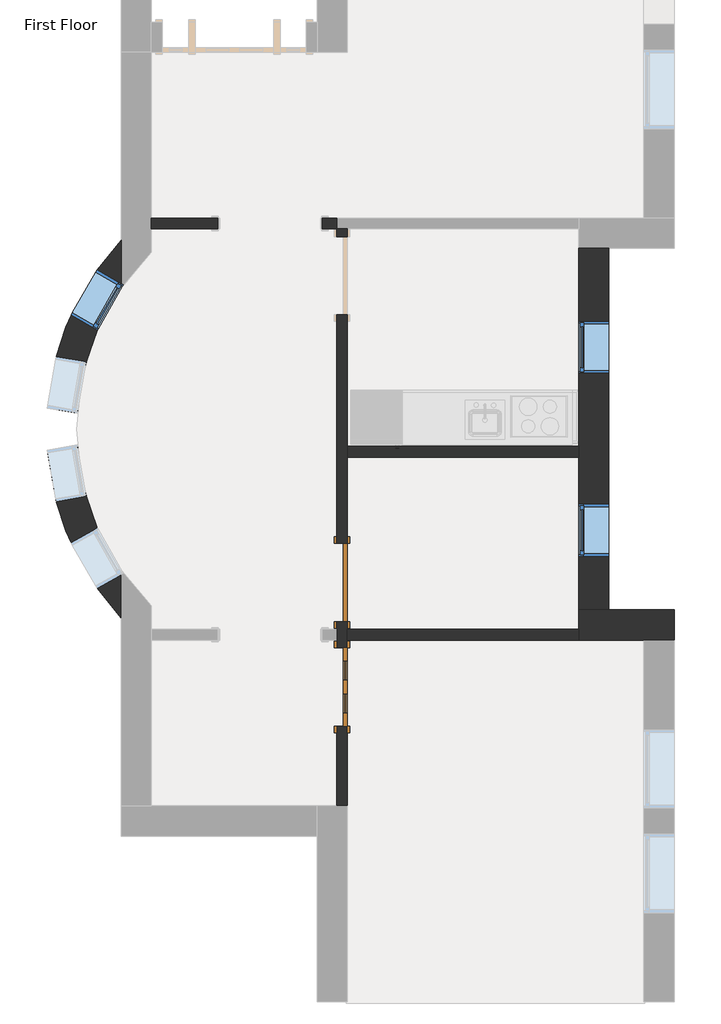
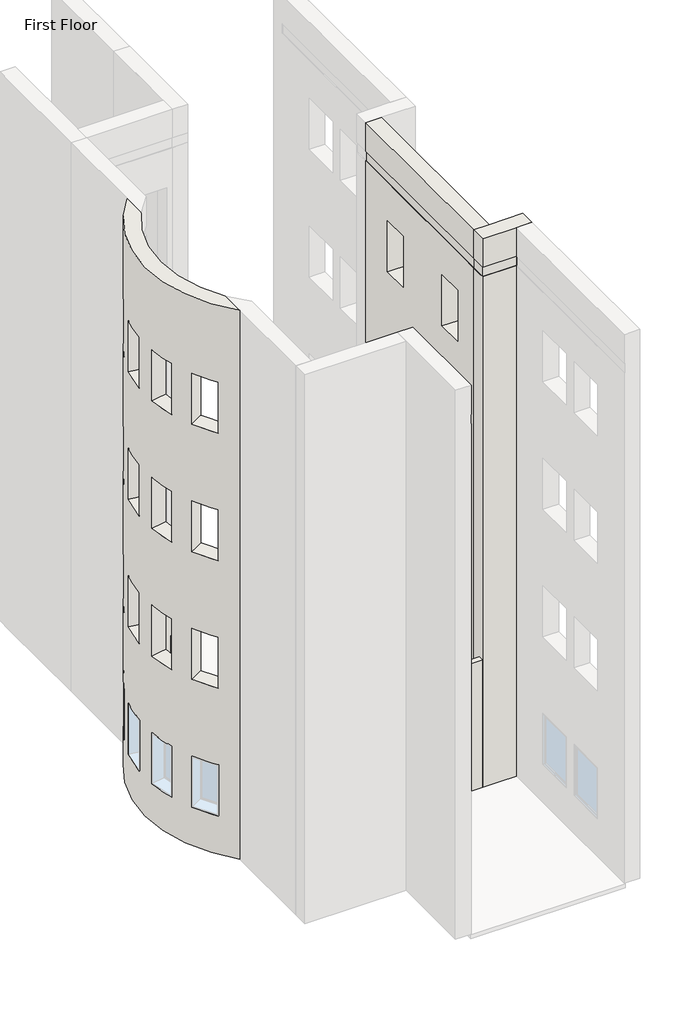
# One storey, part 12 of 23: 7 walls, 3 windows, 2 doors.
"""IFC4 building model written with IfcOpenShell, lengths in millimetres."""

from ifc_helpers import new_model, si_unit, frame, origin, origin_with_axes, place, context, project, spatial, polyline, circle_curve, outline, extrude, faceted_brep, transform, mapped, element, save
from ifc_brep_helpers import plane_surface, cylinder_surface, revolved_surface, advanced_brep
from components import door_829da954, door_a1797ceb, window_60baf983, window_ed80354a

model = new_model("IFC4")

# Units and contexts
model_context = context("Model", 3, world=origin())
ifc_project = project(units=[si_unit("LENGTHUNIT", "METRE", prefix="MILLI")], contexts=[model_context])

# Site, building, storey
site = spatial("IfcSite", under=ifc_project)
building = spatial("IfcBuilding", under=site)
storey = spatial("IfcBuildingStorey", under=building, Name="First Floor", Elevation=0.0)

# Doors
placement = place(None, origin())
door_shape = door_829da954(model_context)
element("IfcDoor", 1, ObjectType="Single-Decorative 2 : 36\" x 84\"", at=placement, inside=storey, context=model_context, shape_type="MappedRepresentation", body=[
    mapped(door_shape, transform((-3900.4589563, -7954.4808133, 0.0), x_axis=(0.0, 1.0, 0.0), y_axis=(-1.0, 0.0, 0.0), z_axis=(0.0, 0.0, 1.0))),
])
door_2_shape = door_a1797ceb(model_context)
element("IfcDoor", 2, ObjectType="Single-Flush : 36\" x 84\"", at=placement, inside=storey, context=model_context, shape_type="MappedRepresentation", body=[
    mapped(door_2_shape, transform((-3900.4589563, -6735.2808133, 0.0), x_axis=(0.0, -1.0, 0.0), y_axis=(1.0, 0.0, 0.0), z_axis=(0.0, 0.0, 1.0))),
])

# Walls
element("IfcWall", 3, ObjectType="Exterior - Brick on Mtl. Stud", at=placement, inside=storey, context=model_context, shape_type="Brep", body=[
    faceted_brep([(-26.9589563, -7055.9558133, 0.0), (-788.9589563, -7055.9558133, 0.0), (-1141.3839563, -7055.9558133, 0.0), (-1141.3839563, -7055.9558133, 12192.0), (-1128.6839563, -7055.9558133, 12192.0), (-1128.6839563, -7055.9558133, 12420.6), (-1141.3839563, -7055.9558133, 12420.6), (-1141.3839563, -7055.9558133, 13106.4), (-788.9589563, -7055.9558133, 13106.4), (-26.9589563, -7055.9558133, 13106.4), (-1141.3839563, -7408.3808133, 0.0), (-379.3839563, -7408.3808133, 0.0), (-26.9589563, -7408.3808133, 0.0), (-26.9589563, -7408.3808133, 13106.4), (-379.3839563, -7408.3808133, 13106.4), (-1141.3839563, -7408.3808133, 13106.4), (-1141.3839563, -7408.3808133, 12420.6), (-379.3839563, -7408.3808133, 12420.6), (-366.6839563, -7408.3808133, 12420.6), (-366.6839563, -7408.3808133, 12192.0), (-379.3839563, -7408.3808133, 12192.0), (-1141.3839563, -7408.3808133, 12192.0), (-1141.3839563, -7408.3808133, 9144.0), (-1141.3839563, -7408.3808133, 6096.0), (-1141.3839563, -7408.3808133, 3048.0), (-1141.3839563, -7281.3808133, 0.0), (-1141.3839563, -7281.3808133, 12192.0), (-366.6839563, -7395.6808133, 12192.0), (-1128.6839563, -7395.6808133, 12192.0), (-1128.6839563, -7395.6808133, 12420.6), (-366.6839563, -7395.6808133, 12420.6)], [[[0, 1, 2, 3, 4, 5, 6, 7, 8, 9]], [[10, 11, 12, 13, 14, 15, 16, 17, 18, 19, 20, 21, 22, 23, 24]], [[2, 1, 0, 12, 11, 10, 25]], [[9, 8, 7, 15, 14, 13]], [[0, 9, 13, 12]], [[2, 25, 10, 24, 23, 22, 21, 26, 3]], [[15, 7, 6, 16]], [[27, 28, 4, 3, 26, 21, 20, 19]], [[29, 30, 18, 17, 16, 6, 5]], [[30, 27, 19, 18]], [[28, 27, 30, 29]], [[28, 29, 5, 4]]]),
])
element("IfcWall", 4, ObjectType="Exterior - Brick on Mtl. Stud", at=placement, inside=storey, context=model_context, shape_type="Brep", body=[
    faceted_brep([(-788.9589563, -7055.9558133, 0.0), (-788.9589563, -2836.3808133, 0.0), (-788.9589563, -2836.3808133, 13106.4), (-788.9589563, -7055.9558133, 13106.4), (-788.9589563, -6430.4808133, 7010.4), (-788.9589563, -6430.4808133, 8229.6), (-788.9589563, -5820.8808133, 8229.6), (-788.9589563, -5820.8808133, 7010.4), (-788.9589563, -4296.8808133, 7010.4), (-788.9589563, -4296.8808133, 8229.6), (-788.9589563, -3687.2808133, 8229.6), (-788.9589563, -3687.2808133, 7010.4), (-788.9589563, -6430.4808133, 3962.4), (-788.9589563, -6430.4808133, 5181.6), (-788.9589563, -5820.8808133, 5181.6), (-788.9589563, -5820.8808133, 3962.4), (-788.9589563, -4296.8808133, 3962.4), (-788.9589563, -4296.8808133, 5181.6), (-788.9589563, -3687.2808133, 5181.6), (-788.9589563, -3687.2808133, 3962.4), (-788.9589563, -6430.4808133, 10058.4), (-788.9589563, -6430.4808133, 11277.6), (-788.9589563, -5820.8808133, 11277.6), (-788.9589563, -5820.8808133, 10058.4), (-788.9589563, -4296.8808133, 10058.4), (-788.9589563, -4296.8808133, 11277.6), (-788.9589563, -3687.2808133, 11277.6), (-788.9589563, -3687.2808133, 10058.4), (-788.9589563, -6430.4808133, 914.4), (-788.9589563, -6430.4808133, 2133.6), (-788.9589563, -5820.8808133, 2133.6), (-788.9589563, -5820.8808133, 914.4), (-788.9589563, -4296.8808133, 914.4), (-788.9589563, -4296.8808133, 2133.6), (-788.9589563, -3687.2808133, 2133.6), (-788.9589563, -3687.2808133, 914.4), (-1141.3839563, -2836.3808133, 0.0), (-1141.3839563, -5147.7808133, 0.0), (-1141.3839563, -5274.7808133, 0.0), (-1141.3839563, -7055.9558133, 0.0), (-1141.3839563, -7055.9558133, 12192.0), (-1141.3839563, -5274.7808133, 12192.0), (-1141.3839563, -5147.7808133, 12192.0), (-1141.3839563, -2836.3808133, 12192.0), (-1141.3839563, -6430.4808133, 8229.6), (-1141.3839563, -6430.4808133, 7010.4), (-1141.3839563, -5820.8808133, 7010.4), (-1141.3839563, -5820.8808133, 8229.6), (-1141.3839563, -4296.8808133, 8229.6), (-1141.3839563, -4296.8808133, 7010.4), (-1141.3839563, -3687.2808133, 7010.4), (-1141.3839563, -3687.2808133, 8229.6), (-1141.3839563, -6430.4808133, 5181.6), (-1141.3839563, -6430.4808133, 3962.4), (-1141.3839563, -5820.8808133, 3962.4), (-1141.3839563, -5820.8808133, 5181.6), (-1141.3839563, -4296.8808133, 5181.6), (-1141.3839563, -4296.8808133, 3962.4), (-1141.3839563, -3687.2808133, 3962.4), (-1141.3839563, -3687.2808133, 5181.6), (-1141.3839563, -6430.4808133, 11277.6), (-1141.3839563, -6430.4808133, 10058.4), (-1141.3839563, -5820.8808133, 10058.4), (-1141.3839563, -5820.8808133, 11277.6), (-1141.3839563, -4296.8808133, 11277.6), (-1141.3839563, -4296.8808133, 10058.4), (-1141.3839563, -3687.2808133, 10058.4), (-1141.3839563, -3687.2808133, 11277.6), (-1141.3839563, -6430.4808133, 2133.6), (-1141.3839563, -6430.4808133, 914.4), (-1141.3839563, -5820.8808133, 914.4), (-1141.3839563, -5820.8808133, 2133.6), (-1141.3839563, -4296.8808133, 2133.6), (-1141.3839563, -4296.8808133, 914.4), (-1141.3839563, -3687.2808133, 914.4), (-1141.3839563, -3687.2808133, 2133.6), (-1141.3839563, -7055.9558133, 13106.4), (-1141.3839563, -2836.3808133, 13106.4), (-1141.3839563, -2836.3808133, 12420.6), (-1141.3839563, -7055.9558133, 12420.6), (-1128.6839563, -7055.9558133, 12420.6), (-1128.6839563, -7055.9558133, 12192.0), (-1128.6839563, -2836.3808133, 12192.0), (-1128.6839563, -2836.3808133, 12420.6)], [[[0, 1, 2, 3], [4, 5, 6, 7], [8, 9, 10, 11], [12, 13, 14, 15], [16, 17, 18, 19], [20, 21, 22, 23], [24, 25, 26, 27], [28, 29, 30, 31], [32, 33, 34, 35]], [[36, 37, 38, 39, 40, 41, 42, 43], [44, 45, 46, 47], [48, 49, 50, 51], [52, 53, 54, 55], [56, 57, 58, 59], [60, 61, 62, 63], [64, 65, 66, 67], [68, 69, 70, 71], [72, 73, 74, 75]], [[76, 77, 78, 79]], [[1, 0, 39, 38, 37, 36]], [[3, 2, 77, 76]], [[0, 3, 76, 79, 80, 81, 40, 39]], [[2, 1, 36, 43, 82, 83, 78, 77]], [[45, 44, 5, 4]], [[46, 45, 4, 7]], [[47, 46, 7, 6]], [[44, 47, 6, 5]], [[49, 48, 9, 8]], [[50, 49, 8, 11]], [[51, 50, 11, 10]], [[48, 51, 10, 9]], [[53, 52, 13, 12]], [[54, 53, 12, 15]], [[55, 54, 15, 14]], [[52, 55, 14, 13]], [[57, 56, 17, 16]], [[58, 57, 16, 19]], [[59, 58, 19, 18]], [[56, 59, 18, 17]], [[61, 60, 21, 20]], [[62, 61, 20, 23]], [[63, 62, 23, 22]], [[60, 63, 22, 21]], [[65, 64, 25, 24]], [[66, 65, 24, 27]], [[67, 66, 27, 26]], [[64, 67, 26, 25]], [[69, 68, 29, 28]], [[70, 69, 28, 31]], [[71, 70, 31, 30]], [[68, 71, 30, 29]], [[73, 72, 33, 32]], [[74, 73, 32, 35]], [[75, 74, 35, 34]], [[72, 75, 34, 33]], [[81, 82, 43, 42, 41, 40]], [[83, 80, 79, 78]], [[82, 81, 80, 83]]]),
])
element("IfcWall", 5, ObjectType="Exterior - Brick on Mtl. Stud", at=placement, inside=storey, context=model_context, shape_type="AdvancedBrep", body=[
    advanced_brep(
    [(-6475.3839563, -2741.7830793, 13106.4), (-6475.3839563, -7150.5535473, 13106.4), (-6475.3839563, -6592.6589631, 13106.4), (-6475.3839563, -3299.6776635, 13106.4), (-6475.3839563, -7150.5535473, 0.0), (-6475.3839563, -2741.7830793, 0.0), (-6475.3839563, -3299.6776635, 0.0), (-6475.3839563, -6592.6589631, 0.0), (-7060.4709271, -6274.1976656, 914.4), (-7060.4709271, -6274.1976656, 2133.6), (-6757.9928429, -6803.4605195, 2133.6), (-6757.9928429, -6803.4605195, 914.4), (-7060.4709271, -3618.1389611, 2133.6), (-7060.4709271, -3618.1389611, 914.4), (-6757.9928429, -3088.8761071, 914.4), (-6757.9928429, -3088.8761071, 2133.6), (-7060.4709271, -6274.1976656, 10058.4), (-7060.4709271, -6274.1976656, 11277.6), (-6757.9928429, -6803.4605195, 11277.6), (-6757.9928429, -6803.4605195, 10058.4), (-7060.4709271, -3618.1389611, 11277.6), (-7060.4709271, -3618.1389611, 10058.4), (-6757.9928429, -3088.8761071, 10058.4), (-6757.9928429, -3088.8761071, 11277.6), (-7060.4709271, -6274.1976656, 3962.4), (-7060.4709271, -6274.1976656, 5181.6), (-6757.9928429, -6803.4605195, 5181.6), (-6757.9928429, -6803.4605195, 3962.4), (-7060.4709271, -3618.1389611, 5181.6), (-7060.4709271, -3618.1389611, 3962.4), (-6757.9928429, -3088.8761071, 3962.4), (-6757.9928429, -3088.8761071, 5181.6), (-7060.4709271, -6274.1976656, 7010.4), (-7060.4709271, -6274.1976656, 8229.6), (-6757.9928429, -6803.4605195, 8229.6), (-6757.9928429, -6803.4605195, 7010.4), (-7060.4709271, -3618.1389611, 8229.6), (-7060.4709271, -3618.1389611, 7010.4), (-6757.9928429, -3088.8761071, 7010.4), (-6757.9928429, -3088.8761071, 8229.6), (-7337.3984091, -4701.7435836, 8229.6), (-7337.3984091, -4701.7435836, 7010.4), (-7233.9296032, -4100.9887532, 7010.4), (-7233.9296032, -4100.9887532, 8229.6), (-7337.3984091, -5190.5930431, 7010.4), (-7337.3984091, -5190.5930431, 8229.6), (-7233.9296032, -5791.3478734, 8229.6), (-7233.9296032, -5791.3478734, 7010.4), (-7337.3984091, -4701.7435836, 5181.6), (-7337.3984091, -4701.7435836, 3962.4), (-7233.9296032, -4100.9887532, 3962.4), (-7233.9296032, -4100.9887532, 5181.6), (-7337.3984091, -5190.5930431, 3962.4), (-7337.3984091, -5190.5930431, 5181.6), (-7233.9296032, -5791.3478734, 5181.6), (-7233.9296032, -5791.3478734, 3962.4), (-7337.3984091, -4701.7435836, 11277.6), (-7337.3984091, -4701.7435836, 10058.4), (-7233.9296032, -4100.9887532, 10058.4), (-7233.9296032, -4100.9887532, 11277.6), (-7337.3984091, -5190.5930431, 10058.4), (-7337.3984091, -5190.5930431, 11277.6), (-7233.9296032, -5791.3478734, 11277.6), (-7233.9296032, -5791.3478734, 10058.4), (-7337.3984091, -4701.7435836, 2133.6), (-7337.3984091, -4701.7435836, 914.4), (-7233.9296032, -4100.9887532, 914.4), (-7233.9296032, -4100.9887532, 2133.6), (-7337.3984091, -5190.5930431, 914.4), (-7337.3984091, -5190.5930431, 2133.6), (-7233.9296032, -5791.3478734, 2133.6), (-7233.9296032, -5791.3478734, 914.4), (-6475.3839563, -6592.6589631, 12420.6), (-6475.3839563, -3299.6776635, 12420.6), (-6475.3839563, -3299.6776635, 914.4), (-6752.944107, -3793.893074, 914.4), (-6752.944107, -3793.893074, 2133.6), (-6475.3839563, -3299.6776635, 2133.6), (-6475.3839563, -3299.6776635, 3962.4), (-6752.944107, -3793.893074, 3962.4), (-6752.944107, -3793.893074, 5181.6), (-6475.3839563, -3299.6776635, 5181.6), (-6475.3839563, -3299.6776635, 7010.4), (-6752.944107, -3793.893074, 7010.4), (-6752.944107, -3793.893074, 8229.6), (-6475.3839563, -3299.6776635, 8229.6), (-6475.3839563, -3299.6776635, 10058.4), (-6752.944107, -3793.893074, 10058.4), (-6752.944107, -3793.893074, 11277.6), (-6475.3839563, -3299.6776635, 11277.6), (-6475.3839563, -3299.6776635, 12192.0), (-6475.3839563, -6592.6589631, 12192.0), (-6475.3839563, -6592.6589631, 11277.6), (-6752.944107, -6098.4435526, 11277.6), (-6752.944107, -6098.4435526, 10058.4), (-6475.3839563, -6592.6589631, 10058.4), (-6475.3839563, -6592.6589631, 8229.6), (-6752.944107, -6098.4435526, 8229.6), (-6752.944107, -6098.4435526, 7010.4), (-6475.3839563, -6592.6589631, 7010.4), (-6475.3839563, -6592.6589631, 5181.6), (-6752.944107, -6098.4435526, 5181.6), (-6752.944107, -6098.4435526, 3962.4), (-6475.3839563, -6592.6589631, 3962.4), (-6475.3839563, -6592.6589631, 2133.6), (-6752.944107, -6098.4435526, 2133.6), (-6752.944107, -6098.4435526, 914.4), (-6475.3839563, -6592.6589631, 914.4), (-6988.33136, -4761.8638671, 7010.4), (-6988.33136, -4761.8638671, 8229.6), (-6884.862554, -4161.1090368, 8229.6), (-6884.862554, -4161.1090368, 7010.4), (-6988.33136, -5130.4727595, 8229.6), (-6988.33136, -5130.4727595, 7010.4), (-6884.862554, -5731.2275899, 7010.4), (-6884.862554, -5731.2275899, 8229.6), (-6988.33136, -4761.8638671, 3962.4), (-6988.33136, -4761.8638671, 5181.6), (-6884.862554, -4161.1090368, 5181.6), (-6884.862554, -4161.1090368, 3962.4), (-6988.33136, -5130.4727595, 5181.6), (-6988.33136, -5130.4727595, 3962.4), (-6884.862554, -5731.2275899, 3962.4), (-6884.862554, -5731.2275899, 5181.6), (-6988.33136, -4761.8638671, 10058.4), (-6988.33136, -4761.8638671, 11277.6), (-6884.862554, -4161.1090368, 11277.6), (-6884.862554, -4161.1090368, 10058.4), (-6988.33136, -5130.4727595, 11277.6), (-6988.33136, -5130.4727595, 10058.4), (-6884.862554, -5731.2275899, 10058.4), (-6884.862554, -5731.2275899, 11277.6), (-6988.33136, -4761.8638671, 914.4), (-6988.33136, -4761.8638671, 2133.6), (-6884.862554, -4161.1090368, 2133.6), (-6884.862554, -4161.1090368, 914.4), (-6988.33136, -5130.4727595, 2133.6), (-6988.33136, -5130.4727595, 914.4), (-6884.862554, -5731.2275899, 914.4), (-6884.862554, -5731.2275899, 2133.6), (-6475.3839563, -2991.1907425, 12420.6), (-6475.3839563, -2991.1907425, 12192.0), (-6475.3839563, -3250.3894156, 11277.6), (-6475.3839563, -3250.3894156, 10058.4), (-6475.3839563, -3250.3894156, 8229.6), (-6475.3839563, -3250.3894156, 7010.4), (-6475.3839563, -3250.3894156, 5181.6), (-6475.3839563, -3250.3894156, 3962.4), (-6475.3839563, -3250.3894156, 2133.6), (-6475.3839563, -3250.3894156, 914.4), (-6475.3839563, -6641.947211, 914.4), (-6475.3839563, -6641.947211, 2133.6), (-6475.3839563, -6641.947211, 3962.4), (-6475.3839563, -6641.947211, 5181.6), (-6475.3839563, -6641.947211, 7010.4), (-6475.3839563, -6641.947211, 8229.6), (-6475.3839563, -6641.947211, 10058.4), (-6475.3839563, -6641.947211, 11277.6), (-6475.3839563, -6901.1458841, 12192.0), (-6475.3839563, -6901.1458841, 12420.6)],
    [
        (0, 1, circle_curve(frame((-4122.4640713, -4946.1683133, 13106.4), z_axis=(0.0, 0.0, 1.0), x_axis=(0.0, 1.0, 0.0)), 3224.2125)),
        (1, 2),
        (2, 3, circle_curve(frame((-4122.4640713, -4946.1683133, 13106.4), z_axis=(0.0, 0.0, -1.0), x_axis=(0.0, 1.0, 0.0)), 2871.7875)),
        (3, 0),
        (4, 5, circle_curve(frame((-4122.4640713, -4946.1683133, 0.0), z_axis=(0.0, 0.0, -1.0), x_axis=(0.0, 1.0, 0.0)), 3224.2125)),
        (5, 6),
        (6, 7, circle_curve(frame((-4122.4640713, -4946.1683133, 0.0), z_axis=(0.0, 0.0, 1.0), x_axis=(0.0, 1.0, 0.0)), 2871.7875)),
        (7, 4),
        (0, 5),
        (4, 1),
        (8, 9),
        (9, 10, circle_curve(frame((-4122.4640713, -4946.1683133, 2133.6), z_axis=(0.0, 0.0, 1.0), x_axis=(0.0, 1.0, 0.0)), 3224.2125)),
        (10, 11),
        (11, 8, circle_curve(frame((-4122.4640713, -4946.1683133, 914.4), z_axis=(0.0, 0.0, -1.0), x_axis=(0.0, 1.0, 0.0)), 3224.2125)),
        (12, 13),
        (13, 14, circle_curve(frame((-4122.4640713, -4946.1683133, 914.4), z_axis=(0.0, 0.0, -1.0), x_axis=(0.0, 1.0, 0.0)), 3224.2125)),
        (14, 15),
        (15, 12, circle_curve(frame((-4122.4640713, -4946.1683133, 2133.6), z_axis=(0.0, 0.0, 1.0), x_axis=(0.0, 1.0, 0.0)), 3224.2125)),
        (16, 17),
        (17, 18, circle_curve(frame((-4122.4640713, -4946.1683133, 11277.6), z_axis=(0.0, 0.0, 1.0), x_axis=(0.0, 1.0, 0.0)), 3224.2125)),
        (18, 19),
        (19, 16, circle_curve(frame((-4122.4640713, -4946.1683133, 10058.4), z_axis=(0.0, 0.0, -1.0), x_axis=(0.0, 1.0, 0.0)), 3224.2125)),
        (20, 21),
        (21, 22, circle_curve(frame((-4122.4640713, -4946.1683133, 10058.4), z_axis=(0.0, 0.0, -1.0), x_axis=(0.0, 1.0, 0.0)), 3224.2125)),
        (22, 23),
        (23, 20, circle_curve(frame((-4122.4640713, -4946.1683133, 11277.6), z_axis=(0.0, 0.0, 1.0), x_axis=(0.0, 1.0, 0.0)), 3224.2125)),
        (24, 25),
        (25, 26, circle_curve(frame((-4122.4640713, -4946.1683133, 5181.6), z_axis=(0.0, 0.0, 1.0), x_axis=(0.0, 1.0, 0.0)), 3224.2125)),
        (26, 27),
        (27, 24, circle_curve(frame((-4122.4640713, -4946.1683133, 3962.4), z_axis=(0.0, 0.0, -1.0), x_axis=(0.0, 1.0, 0.0)), 3224.2125)),
        (28, 29),
        (29, 30, circle_curve(frame((-4122.4640713, -4946.1683133, 3962.4), z_axis=(0.0, 0.0, -1.0), x_axis=(0.0, 1.0, 0.0)), 3224.2125)),
        (30, 31),
        (31, 28, circle_curve(frame((-4122.4640713, -4946.1683133, 5181.6), z_axis=(0.0, 0.0, 1.0), x_axis=(0.0, 1.0, 0.0)), 3224.2125)),
        (32, 33),
        (33, 34, circle_curve(frame((-4122.4640713, -4946.1683133, 8229.6), z_axis=(0.0, 0.0, 1.0), x_axis=(0.0, 1.0, 0.0)), 3224.2125)),
        (34, 35),
        (35, 32, circle_curve(frame((-4122.4640713, -4946.1683133, 7010.4), z_axis=(0.0, 0.0, -1.0), x_axis=(0.0, 1.0, 0.0)), 3224.2125)),
        (36, 37),
        (37, 38, circle_curve(frame((-4122.4640713, -4946.1683133, 7010.4), z_axis=(0.0, 0.0, -1.0), x_axis=(0.0, 1.0, 0.0)), 3224.2125)),
        (38, 39),
        (39, 36, circle_curve(frame((-4122.4640713, -4946.1683133, 8229.6), z_axis=(0.0, 0.0, 1.0), x_axis=(0.0, 1.0, 0.0)), 3224.2125)),
        (40, 41),
        (41, 42, circle_curve(frame((-4122.4640713, -4946.1683133, 7010.4), z_axis=(0.0, 0.0, -1.0), x_axis=(0.0, 1.0, 0.0)), 3224.2125)),
        (42, 43),
        (43, 40, circle_curve(frame((-4122.4640713, -4946.1683133, 8229.6), z_axis=(0.0, 0.0, 1.0), x_axis=(0.0, 1.0, 0.0)), 3224.2125)),
        (44, 45),
        (45, 46, circle_curve(frame((-4122.4640713, -4946.1683133, 8229.6), z_axis=(0.0, 0.0, 1.0), x_axis=(0.0, 1.0, 0.0)), 3224.2125)),
        (46, 47),
        (47, 44, circle_curve(frame((-4122.4640713, -4946.1683133, 7010.4), z_axis=(0.0, 0.0, -1.0), x_axis=(0.0, 1.0, 0.0)), 3224.2125)),
        (48, 49),
        (49, 50, circle_curve(frame((-4122.4640713, -4946.1683133, 3962.4), z_axis=(0.0, 0.0, -1.0), x_axis=(0.0, 1.0, 0.0)), 3224.2125)),
        (50, 51),
        (51, 48, circle_curve(frame((-4122.4640713, -4946.1683133, 5181.6), z_axis=(0.0, 0.0, 1.0), x_axis=(0.0, 1.0, 0.0)), 3224.2125)),
        (52, 53),
        (53, 54, circle_curve(frame((-4122.4640713, -4946.1683133, 5181.6), z_axis=(0.0, 0.0, 1.0), x_axis=(0.0, 1.0, 0.0)), 3224.2125)),
        (54, 55),
        (55, 52, circle_curve(frame((-4122.4640713, -4946.1683133, 3962.4), z_axis=(0.0, 0.0, -1.0), x_axis=(0.0, 1.0, 0.0)), 3224.2125)),
        (56, 57),
        (57, 58, circle_curve(frame((-4122.4640713, -4946.1683133, 10058.4), z_axis=(0.0, 0.0, -1.0), x_axis=(0.0, 1.0, 0.0)), 3224.2125)),
        (58, 59),
        (59, 56, circle_curve(frame((-4122.4640713, -4946.1683133, 11277.6), z_axis=(0.0, 0.0, 1.0), x_axis=(0.0, 1.0, 0.0)), 3224.2125)),
        (60, 61),
        (61, 62, circle_curve(frame((-4122.4640713, -4946.1683133, 11277.6), z_axis=(0.0, 0.0, 1.0), x_axis=(0.0, 1.0, 0.0)), 3224.2125)),
        (62, 63),
        (63, 60, circle_curve(frame((-4122.4640713, -4946.1683133, 10058.4), z_axis=(0.0, 0.0, -1.0), x_axis=(0.0, 1.0, 0.0)), 3224.2125)),
        (64, 65),
        (65, 66, circle_curve(frame((-4122.4640713, -4946.1683133, 914.4), z_axis=(0.0, 0.0, -1.0), x_axis=(0.0, 1.0, 0.0)), 3224.2125)),
        (66, 67),
        (67, 64, circle_curve(frame((-4122.4640713, -4946.1683133, 2133.6), z_axis=(0.0, 0.0, 1.0), x_axis=(0.0, 1.0, 0.0)), 3224.2125)),
        (68, 69),
        (69, 70, circle_curve(frame((-4122.4640713, -4946.1683133, 2133.6), z_axis=(0.0, 0.0, 1.0), x_axis=(0.0, 1.0, 0.0)), 3224.2125)),
        (70, 71),
        (71, 68, circle_curve(frame((-4122.4640713, -4946.1683133, 914.4), z_axis=(0.0, 0.0, -1.0), x_axis=(0.0, 1.0, 0.0)), 3224.2125)),
        (2, 72),
        (72, 73, circle_curve(frame((-4122.4640713, -4946.1683133, 12420.6), z_axis=(0.0, 0.0, -1.0), x_axis=(0.0, 1.0, 0.0)), 2871.7875)),
        (73, 3),
        (6, 74),
        (74, 75, circle_curve(frame((-4122.4640713, -4946.1683133, 914.4), z_axis=(0.0, 0.0, 1.0), x_axis=(0.0, 1.0, 0.0)), 2871.7875)),
        (75, 76),
        (76, 77, circle_curve(frame((-4122.4640713, -4946.1683133, 2133.6), z_axis=(0.0, 0.0, -1.0), x_axis=(0.0, 1.0, 0.0)), 2871.7875)),
        (77, 78),
        (78, 79, circle_curve(frame((-4122.4640713, -4946.1683133, 3962.4), z_axis=(0.0, 0.0, 1.0), x_axis=(0.0, 1.0, 0.0)), 2871.7875)),
        (79, 80),
        (80, 81, circle_curve(frame((-4122.4640713, -4946.1683133, 5181.6), z_axis=(0.0, 0.0, -1.0), x_axis=(0.0, 1.0, 0.0)), 2871.7875)),
        (81, 82),
        (82, 83, circle_curve(frame((-4122.4640713, -4946.1683133, 7010.4), z_axis=(0.0, 0.0, 1.0), x_axis=(0.0, 1.0, 0.0)), 2871.7875)),
        (83, 84),
        (84, 85, circle_curve(frame((-4122.4640713, -4946.1683133, 8229.6), z_axis=(0.0, 0.0, -1.0), x_axis=(0.0, 1.0, 0.0)), 2871.7875)),
        (85, 86),
        (86, 87, circle_curve(frame((-4122.4640713, -4946.1683133, 10058.4), z_axis=(0.0, 0.0, 1.0), x_axis=(0.0, 1.0, 0.0)), 2871.7875)),
        (87, 88),
        (88, 89, circle_curve(frame((-4122.4640713, -4946.1683133, 11277.6), z_axis=(0.0, 0.0, -1.0), x_axis=(0.0, 1.0, 0.0)), 2871.7875)),
        (89, 90),
        (90, 91, circle_curve(frame((-4122.4640713, -4946.1683133, 12192.0), z_axis=(0.0, 0.0, 1.0), x_axis=(0.0, 1.0, 0.0)), 2871.7875)),
        (91, 92),
        (92, 93, circle_curve(frame((-4122.4640713, -4946.1683133, 11277.6), z_axis=(0.0, 0.0, -1.0), x_axis=(0.0, 1.0, 0.0)), 2871.7875)),
        (93, 94),
        (94, 95, circle_curve(frame((-4122.4640713, -4946.1683133, 10058.4), z_axis=(0.0, 0.0, 1.0), x_axis=(0.0, 1.0, 0.0)), 2871.7875)),
        (95, 96),
        (96, 97, circle_curve(frame((-4122.4640713, -4946.1683133, 8229.6), z_axis=(0.0, 0.0, -1.0), x_axis=(0.0, 1.0, 0.0)), 2871.7875)),
        (97, 98),
        (98, 99, circle_curve(frame((-4122.4640713, -4946.1683133, 7010.4), z_axis=(0.0, 0.0, 1.0), x_axis=(0.0, 1.0, 0.0)), 2871.7875)),
        (99, 100),
        (100, 101, circle_curve(frame((-4122.4640713, -4946.1683133, 5181.6), z_axis=(0.0, 0.0, -1.0), x_axis=(0.0, 1.0, 0.0)), 2871.7875)),
        (101, 102),
        (102, 103, circle_curve(frame((-4122.4640713, -4946.1683133, 3962.4), z_axis=(0.0, 0.0, 1.0), x_axis=(0.0, 1.0, 0.0)), 2871.7875)),
        (103, 104),
        (104, 105, circle_curve(frame((-4122.4640713, -4946.1683133, 2133.6), z_axis=(0.0, 0.0, -1.0), x_axis=(0.0, 1.0, 0.0)), 2871.7875)),
        (105, 106),
        (106, 107, circle_curve(frame((-4122.4640713, -4946.1683133, 914.4), z_axis=(0.0, 0.0, 1.0), x_axis=(0.0, 1.0, 0.0)), 2871.7875)),
        (107, 7),
        (108, 109),
        (109, 110, circle_curve(frame((-4122.4640713, -4946.1683133, 8229.6), z_axis=(0.0, 0.0, -1.0), x_axis=(0.0, 1.0, 0.0)), 2871.7875)),
        (110, 111),
        (111, 108, circle_curve(frame((-4122.4640713, -4946.1683133, 7010.4), z_axis=(0.0, 0.0, 1.0), x_axis=(0.0, 1.0, 0.0)), 2871.7875)),
        (112, 113),
        (113, 114, circle_curve(frame((-4122.4640713, -4946.1683133, 7010.4), z_axis=(0.0, 0.0, 1.0), x_axis=(0.0, 1.0, 0.0)), 2871.7875)),
        (114, 115),
        (115, 112, circle_curve(frame((-4122.4640713, -4946.1683133, 8229.6), z_axis=(0.0, 0.0, -1.0), x_axis=(0.0, 1.0, 0.0)), 2871.7875)),
        (116, 117),
        (117, 118, circle_curve(frame((-4122.4640713, -4946.1683133, 5181.6), z_axis=(0.0, 0.0, -1.0), x_axis=(0.0, 1.0, 0.0)), 2871.7875)),
        (118, 119),
        (119, 116, circle_curve(frame((-4122.4640713, -4946.1683133, 3962.4), z_axis=(0.0, 0.0, 1.0), x_axis=(0.0, 1.0, 0.0)), 2871.7875)),
        (120, 121),
        (121, 122, circle_curve(frame((-4122.4640713, -4946.1683133, 3962.4), z_axis=(0.0, 0.0, 1.0), x_axis=(0.0, 1.0, 0.0)), 2871.7875)),
        (122, 123),
        (123, 120, circle_curve(frame((-4122.4640713, -4946.1683133, 5181.6), z_axis=(0.0, 0.0, -1.0), x_axis=(0.0, 1.0, 0.0)), 2871.7875)),
        (124, 125),
        (125, 126, circle_curve(frame((-4122.4640713, -4946.1683133, 11277.6), z_axis=(0.0, 0.0, -1.0), x_axis=(0.0, 1.0, 0.0)), 2871.7875)),
        (126, 127),
        (127, 124, circle_curve(frame((-4122.4640713, -4946.1683133, 10058.4), z_axis=(0.0, 0.0, 1.0), x_axis=(0.0, 1.0, 0.0)), 2871.7875)),
        (128, 129),
        (129, 130, circle_curve(frame((-4122.4640713, -4946.1683133, 10058.4), z_axis=(0.0, 0.0, 1.0), x_axis=(0.0, 1.0, 0.0)), 2871.7875)),
        (130, 131),
        (131, 128, circle_curve(frame((-4122.4640713, -4946.1683133, 11277.6), z_axis=(0.0, 0.0, -1.0), x_axis=(0.0, 1.0, 0.0)), 2871.7875)),
        (132, 133),
        (133, 134, circle_curve(frame((-4122.4640713, -4946.1683133, 2133.6), z_axis=(0.0, 0.0, -1.0), x_axis=(0.0, 1.0, 0.0)), 2871.7875)),
        (134, 135),
        (135, 132, circle_curve(frame((-4122.4640713, -4946.1683133, 914.4), z_axis=(0.0, 0.0, 1.0), x_axis=(0.0, 1.0, 0.0)), 2871.7875)),
        (136, 137),
        (137, 138, circle_curve(frame((-4122.4640713, -4946.1683133, 914.4), z_axis=(0.0, 0.0, 1.0), x_axis=(0.0, 1.0, 0.0)), 2871.7875)),
        (138, 139),
        (139, 136, circle_curve(frame((-4122.4640713, -4946.1683133, 2133.6), z_axis=(0.0, 0.0, -1.0), x_axis=(0.0, 1.0, 0.0)), 2871.7875)),
        (73, 140),
        (140, 141),
        (141, 90),
        (89, 142),
        (142, 143),
        (143, 86),
        (85, 144),
        (144, 145),
        (145, 82),
        (81, 146),
        (146, 147),
        (147, 78),
        (77, 148),
        (148, 149),
        (149, 74),
        (107, 150),
        (150, 151),
        (151, 104),
        (103, 152),
        (152, 153),
        (153, 100),
        (99, 154),
        (154, 155),
        (155, 96),
        (95, 156),
        (156, 157),
        (157, 92),
        (91, 158),
        (158, 159),
        (159, 72),
        (105, 9),
        (8, 106),
        (11, 150),
        (10, 151),
        (12, 76),
        (75, 13),
        (149, 14),
        (148, 15),
        (93, 17),
        (16, 94),
        (19, 156),
        (18, 157),
        (20, 88),
        (87, 21),
        (143, 22),
        (142, 23),
        (101, 25),
        (24, 102),
        (27, 152),
        (26, 153),
        (28, 80),
        (79, 29),
        (147, 30),
        (146, 31),
        (97, 33),
        (32, 98),
        (35, 154),
        (34, 155),
        (36, 84),
        (83, 37),
        (145, 38),
        (144, 39),
        (40, 109),
        (108, 41),
        (111, 42),
        (110, 43),
        (112, 45),
        (44, 113),
        (47, 114),
        (46, 115),
        (48, 117),
        (116, 49),
        (119, 50),
        (118, 51),
        (120, 53),
        (52, 121),
        (55, 122),
        (54, 123),
        (56, 125),
        (124, 57),
        (127, 58),
        (126, 59),
        (128, 61),
        (60, 129),
        (63, 130),
        (62, 131),
        (64, 133),
        (132, 65),
        (135, 66),
        (134, 67),
        (136, 69),
        (68, 137),
        (71, 138),
        (70, 139),
        (141, 158, circle_curve(frame((-4122.4640713, -4946.1683133, 12192.0), z_axis=(0.0, 0.0, 1.0), x_axis=(0.0, -1.0, 0.0)), 3059.1125)),
        (159, 140, circle_curve(frame((-4122.4640713, -4946.1683133, 12420.6), z_axis=(0.0, 0.0, -1.0), x_axis=(0.0, -1.0, 0.0)), 3059.1125)),
    ],
    [
        plane_surface(frame((-4122.4640713, -1721.9558133, 13106.4), z_axis=(0.0, 0.0, 1.0), x_axis=(-1.0, 0.0, 0.0))),
        plane_surface(frame((-4122.4640713, -1721.9558133, 0.0), z_axis=(0.0, 0.0, -1.0), x_axis=(1.0, 0.0, 0.0))),
        cylinder_surface(frame((-4122.4640713, -4946.1683133, 0.0), z_axis=(0.0, 0.0, 1.0), x_axis=(0.0, 1.0, 0.0)), 3224.2125),
        revolved_surface(polyline([(-4122.4640713, -2074.3808132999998, 12420.6), (-4122.4640713, -2074.3808132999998, 13106.4)]), (-4122.4640713, -4946.1683133, 0.0), (0.0, 0.0, -1.0)),
        revolved_surface(polyline([(-4122.4640713, -2074.3808132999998, 0.0), (-4122.4640713, -2074.3808132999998, 12192.0)]), (-4122.4640713, -4946.1683133, 0.0), (0.0, 0.0, -1.0)),
        plane_surface(frame((-6475.3839563, -374.1683133, 0.0), z_axis=(1.0, 0.0, 0.0), x_axis=(0.0, -1.0, 0.0))),
        plane_surface(frame((-6475.3839563, -9518.1683133, 0.0), z_axis=(1.0, 0.0, 0.0), x_axis=(0.0, -1.0, 0.0))),
        plane_surface(frame((-8383.628062, -7030.3928761, 2133.6), z_axis=(0.49619108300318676, -0.8682133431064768, 0.0), x_axis=(0.8682133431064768, 0.49619108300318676, 0.0))),
        plane_surface(frame((-8383.628062, -7030.3928761, 914.4), z_axis=(0.0, 0.0, 1.0000000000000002), x_axis=(0.8682133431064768, 0.49619108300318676, 0.0))),
        plane_surface(frame((-8081.1499778, -7559.65573, 914.4), z_axis=(-0.49619108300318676, 0.8682133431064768, 0.0), x_axis=(0.8682133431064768, 0.49619108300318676, 0.0))),
        plane_surface(frame((-8081.1499778, -7559.65573, 2133.6), z_axis=(0.0, 0.0, -1.0000000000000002), x_axis=(0.8682133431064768, 0.49619108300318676, 0.0))),
        plane_surface(frame((-5737.3137922, -4374.3341716, 2133.6), z_axis=(0.49619108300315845, 0.868213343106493, 0.0), x_axis=(-0.868213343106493, 0.49619108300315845, 0.0))),
        plane_surface(frame((-5737.3137922, -4374.3341716, 914.4), z_axis=(0.0, 0.0, 1.0000000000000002), x_axis=(-0.8682133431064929, 0.49619108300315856, 0.0))),
        plane_surface(frame((-5434.835708, -3845.0713176, 914.4), z_axis=(-0.49619108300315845, -0.868213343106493, 0.0), x_axis=(-0.868213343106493, 0.49619108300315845, 0.0))),
        plane_surface(frame((-5434.835708, -3845.0713176, 2133.6), z_axis=(0.0, 0.0, -1.0000000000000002), x_axis=(-0.868213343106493, 0.49619108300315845, 0.0))),
        plane_surface(frame((-8383.628062, -7030.3928761, 11277.6), z_axis=(0.49619108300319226, -0.8682133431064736, 0.0), x_axis=(0.8682133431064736, 0.49619108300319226, 0.0))),
        plane_surface(frame((-8383.628062, -7030.3928761, 10058.4), z_axis=(0.0, 0.0, 1.0), x_axis=(0.8682133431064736, 0.49619108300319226, 0.0))),
        plane_surface(frame((-8081.1499778, -7559.65573, 10058.4), z_axis=(-0.49619108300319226, 0.8682133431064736, 0.0), x_axis=(0.8682133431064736, 0.49619108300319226, 0.0))),
        plane_surface(frame((-8081.1499778, -7559.65573, 11277.6), z_axis=(0.0, 0.0, -1.0), x_axis=(0.8682133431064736, 0.49619108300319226, 0.0))),
        plane_surface(frame((-5737.3137922, -4374.3341716, 11277.6), z_axis=(0.4961910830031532, 0.8682133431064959, 0.0), x_axis=(-0.8682133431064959, 0.4961910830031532, 0.0))),
        plane_surface(frame((-5737.3137922, -4374.3341716, 10058.4), z_axis=(0.0, 0.0, 1.0000000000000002), x_axis=(-0.8682133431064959, 0.4961910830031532, 0.0))),
        plane_surface(frame((-5434.835708, -3845.0713176, 10058.4), z_axis=(-0.496191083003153, -0.868213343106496, 0.0), x_axis=(-0.868213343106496, 0.496191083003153, 0.0))),
        plane_surface(frame((-5434.835708, -3845.0713176, 11277.6), z_axis=(0.0, 0.0, -1.0), x_axis=(-0.868213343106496, 0.496191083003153, 0.0))),
        plane_surface(frame((-8383.628062, -7030.3928761, 5181.6), z_axis=(0.49619108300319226, -0.8682133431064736, 0.0), x_axis=(0.8682133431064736, 0.49619108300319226, 0.0))),
        plane_surface(frame((-8383.628062, -7030.3928761, 3962.4), z_axis=(0.0, 0.0, 1.0), x_axis=(0.8682133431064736, 0.49619108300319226, 0.0))),
        plane_surface(frame((-8081.1499778, -7559.65573, 3962.4), z_axis=(-0.49619108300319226, 0.8682133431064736, 0.0), x_axis=(0.8682133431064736, 0.49619108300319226, 0.0))),
        plane_surface(frame((-8081.1499778, -7559.65573, 5181.6), z_axis=(0.0, 0.0, -1.0), x_axis=(0.8682133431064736, 0.49619108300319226, 0.0))),
        plane_surface(frame((-5737.3137922, -4374.3341716, 5181.6), z_axis=(0.4961910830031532, 0.8682133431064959, 0.0), x_axis=(-0.8682133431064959, 0.4961910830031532, 0.0))),
        plane_surface(frame((-5737.3137922, -4374.3341716, 3962.4), z_axis=(0.0, 0.0, 1.0000000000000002), x_axis=(-0.8682133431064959, 0.4961910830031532, 0.0))),
        plane_surface(frame((-5434.835708, -3845.0713176, 3962.4), z_axis=(-0.496191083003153, -0.868213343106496, 0.0), x_axis=(-0.868213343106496, 0.496191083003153, 0.0))),
        plane_surface(frame((-5434.835708, -3845.0713176, 5181.6), z_axis=(0.0, 0.0, -1.0), x_axis=(-0.868213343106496, 0.496191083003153, 0.0))),
        plane_surface(frame((-8383.628062, -7030.3928761, 8229.6), z_axis=(0.49619108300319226, -0.8682133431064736, 0.0), x_axis=(0.8682133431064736, 0.49619108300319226, 0.0))),
        plane_surface(frame((-8383.628062, -7030.3928761, 7010.4), z_axis=(0.0, 0.0, 1.0), x_axis=(0.8682133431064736, 0.49619108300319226, 0.0))),
        plane_surface(frame((-8081.1499778, -7559.65573, 7010.4), z_axis=(-0.49619108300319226, 0.8682133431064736, 0.0), x_axis=(0.8682133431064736, 0.49619108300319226, 0.0))),
        plane_surface(frame((-8081.1499778, -7559.65573, 8229.6), z_axis=(0.0, 0.0, -1.0), x_axis=(0.8682133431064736, 0.49619108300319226, 0.0))),
        plane_surface(frame((-5737.3137922, -4374.3341716, 8229.6), z_axis=(0.4961910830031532, 0.8682133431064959, 0.0), x_axis=(-0.8682133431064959, 0.4961910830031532, 0.0))),
        plane_surface(frame((-5737.3137922, -4374.3341716, 7010.4), z_axis=(0.0, 0.0, 1.0000000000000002), x_axis=(-0.8682133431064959, 0.4961910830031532, 0.0))),
        plane_surface(frame((-5434.835708, -3845.0713176, 7010.4), z_axis=(-0.496191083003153, -0.868213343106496, 0.0), x_axis=(-0.868213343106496, 0.496191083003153, 0.0))),
        plane_surface(frame((-5434.835708, -3845.0713176, 8229.6), z_axis=(0.0, 0.0, -1.0), x_axis=(-0.868213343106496, 0.496191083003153, 0.0))),
        plane_surface(frame((-7337.3984091, -4701.7435836, 8229.6), z_axis=(0.16973229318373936, 0.9854902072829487, 0.0), x_axis=(0.9854902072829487, -0.16973229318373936, 0.0))),
        plane_surface(frame((-7337.3984091, -4701.7435836, 7010.4), z_axis=(0.0, 0.0, 1.0), x_axis=(0.9854902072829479, -0.1697322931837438, 0.0))),
        plane_surface(frame((-7233.9296032, -4100.9887532, 7010.4), z_axis=(-0.16973229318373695, -0.9854902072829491, 0.0), x_axis=(0.9854902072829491, -0.16973229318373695, 0.0))),
        plane_surface(frame((-7233.9296032, -4100.9887532, 8229.6), z_axis=(0.0, 0.0, -1.0), x_axis=(0.9854902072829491, -0.16973229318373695, 0.0))),
        plane_surface(frame((-6988.33136, -5130.4727595, 8229.6), z_axis=(0.16973229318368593, -0.9854902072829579, 0.0), x_axis=(-0.9854902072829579, -0.16973229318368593, 0.0))),
        plane_surface(frame((-6988.33136, -5130.4727595, 7010.4), z_axis=(0.0, 0.0, 1.0), x_axis=(-0.9854902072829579, -0.16973229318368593, 0.0))),
        plane_surface(frame((-6884.862554, -5731.2275899, 7010.4), z_axis=(-0.16973229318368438, 0.9854902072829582, 0.0), x_axis=(-0.9854902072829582, -0.16973229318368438, 0.0))),
        plane_surface(frame((-6884.862554, -5731.2275899, 8229.6), z_axis=(0.0, 0.0, -1.0000000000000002), x_axis=(-0.9854902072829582, -0.16973229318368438, 0.0))),
        plane_surface(frame((-7337.3984091, -4701.7435836, 5181.6), z_axis=(0.16973229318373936, 0.9854902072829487, 0.0), x_axis=(0.9854902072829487, -0.16973229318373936, 0.0))),
        plane_surface(frame((-7337.3984091, -4701.7435836, 3962.4), z_axis=(0.0, 0.0, 1.0), x_axis=(0.9854902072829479, -0.1697322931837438, 0.0))),
        plane_surface(frame((-7233.9296032, -4100.9887532, 3962.4), z_axis=(-0.16973229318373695, -0.9854902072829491, 0.0), x_axis=(0.9854902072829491, -0.16973229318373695, 0.0))),
        plane_surface(frame((-7233.9296032, -4100.9887532, 5181.6), z_axis=(0.0, 0.0, -1.0), x_axis=(0.9854902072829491, -0.16973229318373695, 0.0))),
        plane_surface(frame((-6988.33136, -5130.4727595, 5181.6), z_axis=(0.16973229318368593, -0.9854902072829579, 0.0), x_axis=(-0.9854902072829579, -0.16973229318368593, 0.0))),
        plane_surface(frame((-6988.33136, -5130.4727595, 3962.4), z_axis=(0.0, 0.0, 1.0), x_axis=(-0.9854902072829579, -0.16973229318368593, 0.0))),
        plane_surface(frame((-6884.862554, -5731.2275899, 3962.4), z_axis=(-0.16973229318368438, 0.9854902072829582, 0.0), x_axis=(-0.9854902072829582, -0.16973229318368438, 0.0))),
        plane_surface(frame((-6884.862554, -5731.2275899, 5181.6), z_axis=(0.0, 0.0, -1.0000000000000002), x_axis=(-0.9854902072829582, -0.16973229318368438, 0.0))),
        plane_surface(frame((-7337.3984091, -4701.7435836, 11277.6), z_axis=(0.16973229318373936, 0.9854902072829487, 0.0), x_axis=(0.9854902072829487, -0.16973229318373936, 0.0))),
        plane_surface(frame((-7337.3984091, -4701.7435836, 10058.4), z_axis=(0.0, 0.0, 1.0), x_axis=(0.9854902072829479, -0.1697322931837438, 0.0))),
        plane_surface(frame((-7233.9296032, -4100.9887532, 10058.4), z_axis=(-0.16973229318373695, -0.9854902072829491, 0.0), x_axis=(0.9854902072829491, -0.16973229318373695, 0.0))),
        plane_surface(frame((-7233.9296032, -4100.9887532, 11277.6), z_axis=(0.0, 0.0, -1.0), x_axis=(0.9854902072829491, -0.16973229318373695, 0.0))),
        plane_surface(frame((-6988.33136, -5130.4727595, 11277.6), z_axis=(0.16973229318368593, -0.9854902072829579, 0.0), x_axis=(-0.9854902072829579, -0.16973229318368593, 0.0))),
        plane_surface(frame((-6988.33136, -5130.4727595, 10058.4), z_axis=(0.0, 0.0, 1.0), x_axis=(-0.9854902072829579, -0.16973229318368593, 0.0))),
        plane_surface(frame((-6884.862554, -5731.2275899, 10058.4), z_axis=(-0.16973229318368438, 0.9854902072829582, 0.0), x_axis=(-0.9854902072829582, -0.16973229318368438, 0.0))),
        plane_surface(frame((-6884.862554, -5731.2275899, 11277.6), z_axis=(0.0, 0.0, -1.0000000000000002), x_axis=(-0.9854902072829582, -0.16973229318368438, 0.0))),
        plane_surface(frame((-7337.3984091, -4701.7435836, 2133.6), z_axis=(0.1697322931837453, 0.9854902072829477, 0.0), x_axis=(0.9854902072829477, -0.1697322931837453, 0.0))),
        plane_surface(frame((-7337.3984091, -4701.7435836, 914.4), z_axis=(0.0, 0.0, 1.0), x_axis=(0.9854902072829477, -0.1697322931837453, 0.0))),
        plane_surface(frame((-7233.9296032, -4100.9887532, 914.4), z_axis=(-0.16973229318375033, -0.9854902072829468, 0.0), x_axis=(0.9854902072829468, -0.16973229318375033, 0.0))),
        plane_surface(frame((-7233.9296032, -4100.9887532, 2133.6), z_axis=(0.0, 0.0, -1.0), x_axis=(0.9854902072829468, -0.16973229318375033, 0.0))),
        plane_surface(frame((-6988.33136, -5130.4727595, 2133.6), z_axis=(0.16973229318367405, -0.98549020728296, 0.0), x_axis=(-0.98549020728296, -0.16973229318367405, 0.0))),
        plane_surface(frame((-6988.33136, -5130.4727595, 914.4), z_axis=(0.0, 0.0, 1.0000000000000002), x_axis=(-0.9854902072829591, -0.1697322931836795, 0.0))),
        plane_surface(frame((-6884.862554, -5731.2275899, 914.4), z_axis=(-0.16973229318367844, 0.9854902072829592, 0.0), x_axis=(-0.9854902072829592, -0.16973229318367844, 0.0))),
        plane_surface(frame((-6884.862554, -5731.2275899, 2133.6), z_axis=(0.0, 0.0, -1.0000000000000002), x_axis=(-0.9854902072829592, -0.16973229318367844, 0.0))),
        plane_surface(frame((-366.6839563, -11640.6558133, 12192.0), z_axis=(0.0, 0.0, 1.0), x_axis=(1.0, 0.0, 0.0))),
        plane_surface(frame((-366.6839563, -11640.6558133, 12420.6), z_axis=(0.0, 0.0, -1.0), x_axis=(1.0, 0.0, 0.0))),
        revolved_surface(polyline([(-4122.4640713, -8005.2808133, 12420.6), (-4122.4640713, -8005.2808133, 12192.0)]), (-4122.4640713, -4946.1683133, 12192.0), (0.0, 0.0, 1.0)),
    ],
    [
        (0, [[1, 2, 3, 4]]),
        (1, [[5, 6, 7, 8]]),
        (2, [[-1, 9, -5, 10], [11, 12, 13, 14], [15, 16, 17, 18], [19, 20, 21, 22], [23, 24, 25, 26], [27, 28, 29, 30], [31, 32, 33, 34], [35, 36, 37, 38], [39, 40, 41, 42], [43, 44, 45, 46], [47, 48, 49, 50], [51, 52, 53, 54], [55, 56, 57, 58], [59, 60, 61, 62], [63, 64, 65, 66], [67, 68, 69, 70], [71, 72, 73, 74]]),
        (3, [[-3, 75, 76, 77]]),
        (4, [[-7, 78, 79, 80, 81, 82, 83, 84, 85, 86, 87, 88, 89, 90, 91, 92, 93, 94, 95, 96, 97, 98, 99, 100, 101, 102, 103, 104, 105, 106, 107, 108, 109, 110, 111, 112], [113, 114, 115, 116], [117, 118, 119, 120], [121, 122, 123, 124], [125, 126, 127, 128], [129, 130, 131, 132], [133, 134, 135, 136], [137, 138, 139, 140], [141, 142, 143, 144]]),
        (5, [[-4, -77, 145, 146, 147, -94, 148, 149, 150, -90, 151, 152, 153, -86, 154, 155, 156, -82, 157, 158, 159, -78, -6, -9]]),
        (6, [[-2, -10, -8, -112, 160, 161, 162, -108, 163, 164, 165, -104, 166, 167, 168, -100, 169, 170, 171, -96, 172, 173, 174, -75]]),
        (7, [[175, -11, 176, -110]]),
        (8, [[-176, -14, 177, -160, -111]]),
        (9, [[-177, -13, 178, -161]]),
        (10, [[-175, -109, -162, -178, -12]]),
        (11, [[179, -80, 180, -15]]),
        (12, [[-180, -79, -159, 181, -16]]),
        (13, [[-181, -158, 182, -17]]),
        (14, [[-179, -18, -182, -157, -81]]),
        (15, [[183, -19, 184, -98]]),
        (16, [[-184, -22, 185, -169, -99]]),
        (17, [[-185, -21, 186, -170]]),
        (18, [[-183, -97, -171, -186, -20]]),
        (19, [[187, -92, 188, -23]]),
        (20, [[-188, -91, -150, 189, -24]]),
        (21, [[-189, -149, 190, -25]]),
        (22, [[-187, -26, -190, -148, -93]]),
        (23, [[191, -27, 192, -106]]),
        (24, [[-192, -30, 193, -163, -107]]),
        (25, [[-193, -29, 194, -164]]),
        (26, [[-191, -105, -165, -194, -28]]),
        (27, [[195, -84, 196, -31]]),
        (28, [[-196, -83, -156, 197, -32]]),
        (29, [[-197, -155, 198, -33]]),
        (30, [[-195, -34, -198, -154, -85]]),
        (31, [[199, -35, 200, -102]]),
        (32, [[-200, -38, 201, -166, -103]]),
        (33, [[-201, -37, 202, -167]]),
        (34, [[-199, -101, -168, -202, -36]]),
        (35, [[203, -88, 204, -39]]),
        (36, [[-204, -87, -153, 205, -40]]),
        (37, [[-205, -152, 206, -41]]),
        (38, [[-203, -42, -206, -151, -89]]),
        (39, [[-43, 207, -113, 208]]),
        (40, [[-44, -208, -116, 209]]),
        (41, [[-45, -209, -115, 210]]),
        (42, [[-46, -210, -114, -207]]),
        (43, [[-117, 211, -47, 212]]),
        (44, [[-118, -212, -50, 213]]),
        (45, [[-119, -213, -49, 214]]),
        (46, [[-120, -214, -48, -211]]),
        (47, [[-51, 215, -121, 216]]),
        (48, [[-52, -216, -124, 217]]),
        (49, [[-53, -217, -123, 218]]),
        (50, [[-54, -218, -122, -215]]),
        (51, [[-125, 219, -55, 220]]),
        (52, [[-126, -220, -58, 221]]),
        (53, [[-127, -221, -57, 222]]),
        (54, [[-128, -222, -56, -219]]),
        (55, [[-59, 223, -129, 224]]),
        (56, [[-60, -224, -132, 225]]),
        (57, [[-61, -225, -131, 226]]),
        (58, [[-62, -226, -130, -223]]),
        (59, [[-133, 227, -63, 228]]),
        (60, [[-134, -228, -66, 229]]),
        (61, [[-135, -229, -65, 230]]),
        (62, [[-136, -230, -64, -227]]),
        (63, [[-67, 231, -137, 232]]),
        (64, [[-68, -232, -140, 233]]),
        (65, [[-69, -233, -139, 234]]),
        (66, [[-70, -234, -138, -231]]),
        (67, [[-141, 235, -71, 236]]),
        (68, [[-142, -236, -74, 237]]),
        (69, [[-143, -237, -73, 238]]),
        (70, [[-144, -238, -72, -235]]),
        (71, [[239, -172, -95, -147]]),
        (72, [[240, -145, -76, -174]]),
        (73, [[-239, -146, -240, -173]]),
    ],
),
])
element("IfcWall", 6, ObjectType="Interior - 5\" Partition (2-hr)", at=placement, inside=storey, context=model_context, shape_type="Brep", body=[
    faceted_brep([(-3836.9589563, -7497.2808133, 2133.6), (-3836.9589563, -7497.2808133, 0.0), (-3836.9589563, -7408.3808133, 0.0), (-3836.9589563, -7281.3808133, 0.0), (-3836.9589563, -7192.4808133, 0.0), (-3836.9589563, -7192.4808133, 2133.6), (-3836.9589563, -6278.0808133, 2133.6), (-3836.9589563, -6278.0808133, 0.0), (-3836.9589563, -5274.7808133, 0.0), (-3836.9589563, -5147.7808133, 0.0), (-3836.9589563, -3614.2558133, 0.0), (-3836.9589563, -3614.2558133, 2133.6), (-3836.9589563, -2699.8558133, 2133.6), (-3836.9589563, -2699.8558133, 0.0), (-3836.9589563, -2610.9558133, 0.0), (-3836.9589563, -2610.9558133, 3048.0), (-3836.9589563, -5147.7808133, 3048.0), (-3836.9589563, -5274.7808133, 3048.0), (-3836.9589563, -7281.3808133, 3048.0), (-3836.9589563, -7408.3808133, 3048.0), (-3836.9589563, -9341.9558133, 3048.0), (-3836.9589563, -9341.9558133, 0.0), (-3836.9589563, -8411.6808133, 0.0), (-3836.9589563, -8411.6808133, 2133.6), (-3963.9589563, -7192.4808133, 0.0), (-3963.9589563, -7281.3808133, 0.0), (-3963.9589563, -7408.3808133, 0.0), (-3963.9589563, -7497.2808133, 0.0), (-3963.9589563, -7497.2808133, 2133.6), (-3963.9589563, -8411.6808133, 2133.6), (-3963.9589563, -8411.6808133, 0.0), (-3963.9589563, -9341.9558133, 0.0), (-3963.9589563, -9341.9558133, 3048.0), (-3963.9589563, -7408.3808133, 3048.0), (-3963.9589563, -7281.3808133, 3048.0), (-3963.9589563, -2610.9558133, 3048.0), (-3963.9589563, -2610.9558133, 0.0), (-3963.9589563, -2699.8558133, 0.0), (-3963.9589563, -2699.8558133, 2133.6), (-3963.9589563, -3614.2558133, 2133.6), (-3963.9589563, -3614.2558133, 0.0), (-3963.9589563, -6278.0808133, 0.0), (-3963.9589563, -6278.0808133, 2133.6), (-3963.9589563, -7192.4808133, 2133.6)], [[[0, 1, 2, 3, 4, 5, 6, 7, 8, 9, 10, 11, 12, 13, 14, 15, 16, 17, 18, 19, 20, 21, 22, 23]], [[24, 25, 26, 27, 28, 29, 30, 31, 32, 33, 34, 35, 36, 37, 38, 39, 40, 41, 42, 43]], [[14, 13, 37, 36]], [[4, 3, 2, 1, 27, 26, 25, 24]], [[41, 40, 10, 9, 8, 7]], [[22, 21, 31, 30]], [[20, 19, 18, 17, 16, 15, 35, 34, 33, 32]], [[21, 20, 32, 31]], [[15, 14, 36, 35]], [[38, 37, 13, 12]], [[39, 38, 12, 11]], [[40, 39, 11, 10]], [[5, 4, 24, 43]], [[6, 5, 43, 42]], [[7, 6, 42, 41]], [[28, 27, 1, 0]], [[29, 28, 0, 23]], [[30, 29, 23, 22]]]),
])
element("IfcWall", 7, ObjectType="Interior - 5\" Partition (2-hr)", at=placement, inside=storey, context=model_context, shape_type="SweptSolid", body=[
    extrude(outline(polyline([(-3836.9589563, -7281.3808133), (-1141.3839563, -7281.3808133), (-1141.3839563, -7408.3808133), (-3836.9589563, -7408.3808133), (-3836.9589563, -7281.3808133)])), origin_with_axes(), (0.0, 0.0, 1.0), 3048.0),
])
element("IfcWall", 8, ObjectType="Interior - 5\" Partition (2-hr)", at=placement, inside=storey, context=model_context, shape_type="SweptSolid", body=[
    extrude(outline(polyline([(-1141.3839563, -5274.7808133), (-3836.9589563, -5274.7808133), (-3836.9589563, -5147.7808133), (-1141.3839563, -5147.7808133), (-1141.3839563, -5274.7808133)])), origin_with_axes(), (0.0, 0.0, 1.0), 3048.0),
])
element("IfcWall", 9, ObjectType="Interior - 5\" Partition (2-hr)", at=placement, inside=storey, context=model_context, shape_type="SweptSolid", body=[
    extrude(outline(polyline([(2133.6, -4129.0589563), (0.0, -4129.0589563), (0.0, -3963.9589563), (3048.0, -3963.9589563), (3048.0, -6122.9589563), (0.0, -6122.9589563), (0.0, -5348.2589563), (2133.6, -5348.2589563), (2133.6, -4129.0589563)])), frame((0.0, -2610.9558133, 0.0), z_axis=(0.0, 1.0, 0.0), x_axis=(0.0, 0.0, 1.0)), (0.0, 0.0, 1.0), 127.0),
])

# Windows
window_shape = window_60baf983(model_context)
element("IfcWindow", 10, ObjectType="Fixed : 24\" x 48\"", at=placement, inside=storey, context=model_context, shape_type="MappedRepresentation", body=[
    mapped(window_shape, transform((-6775.1467215, -3474.0215337, 0.0), x_axis=(-0.4961910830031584, -0.868213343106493, 0.0), y_axis=(0.868213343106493, -0.4961910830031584, 0.0), z_axis=(0.0, 0.0, 1.0))),
])
window_2_shape = window_ed80354a(model_context)
element("IfcWindow", 11, ObjectType="Fixed : 24\" x 48\"", at=placement, inside=storey, context=model_context, shape_type="MappedRepresentation", body=[
    mapped(window_2_shape, transform((-965.1714563, -4030.1808133, 0.0), x_axis=(0.0, -1.0, 0.0), y_axis=(1.0, 0.0, 0.0), z_axis=(0.0, 0.0, 1.0))),
])
element("IfcWindow", 12, ObjectType="Fixed : 24\" x 48\"", at=placement, inside=storey, context=model_context, shape_type="MappedRepresentation", body=[
    mapped(window_2_shape, transform((-965.1714563, -6163.7808133, 0.0), x_axis=(0.0, -1.0, 0.0), y_axis=(1.0, 0.0, 0.0), z_axis=(0.0, 0.0, 1.0))),
])

save(model, "model.ifc")
